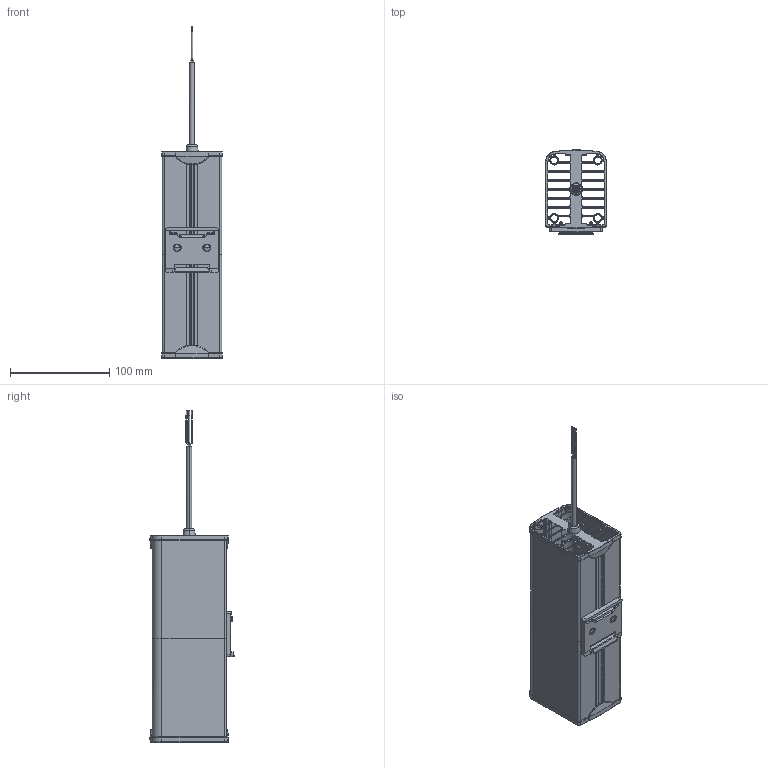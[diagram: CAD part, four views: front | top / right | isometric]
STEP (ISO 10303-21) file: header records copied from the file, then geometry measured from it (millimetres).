
FILE_DESCRIPTION(/* description */ (''),/* implementation_level */ '2;1');
FILE_NAME(/* name */ 'HWM150',/* time_stamp */ '2025-11-10T14:19:50+01:00',/* author */ (''),/* organization */ (''),/* preprocessor_version */ 'ST-DEVELOPER v16.5',/* originating_system */ 'Rhino 7.38',/* authorisation */ '');
FILE_SCHEMA (('AUTOMOTIVE_DESIGN'));
Length unit declared in the file: millimetre
Products named in the file (5): Document; InstanceDefinition 04; InstanceDefinition 11; InstanceDefinition 08; InstanceDefinition 13
Assembly tree (5 placements, depth 2):
  Document
    InstanceDefinition 04  x2
    InstanceDefinition 11
    InstanceDefinition 08
    InstanceDefinition 13
Bounding box: 61.57 x 84.86 x 335 mm (x, y, z)
Volume: 9708.6 mm3; surface area: 72993.2 mm2
Topology: 5 solids, 8 shells, 1199 faces, 3245 edges, 2058 vertices
Faces by surface type: cylinder 512, bspline 484, plane 203
Entity records: 63962 total; most frequent: CARTESIAN_POINT 45692, ORIENTED_EDGE 5810, EDGE_CURVE 3213, VERTEX_POINT 2044, EDGE_LOOP 1258, B_SPLINE_CURVE_WITH_KNOTS 1196, ADVANCED_FACE 1186, FACE_OUTER_BOUND 1186
